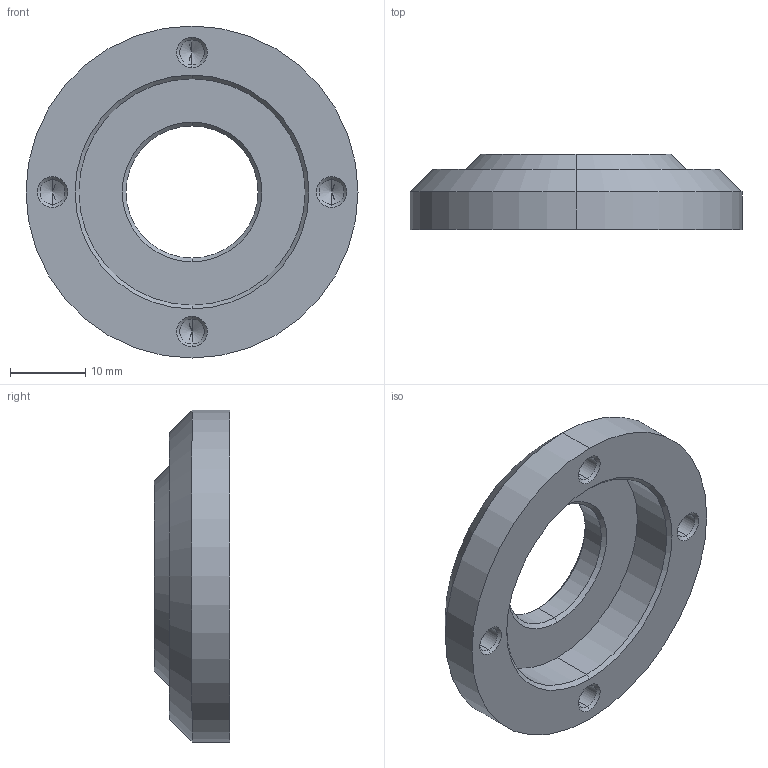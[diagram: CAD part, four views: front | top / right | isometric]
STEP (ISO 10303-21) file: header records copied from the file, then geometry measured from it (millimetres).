
FILE_DESCRIPTION (( 'STEP AP203' ), '1' );
FILE_NAME ('Distanzring_Zünder.STEP', '2020-12-15T00:54:22', ( '' ), ( '' ), 'SwSTEP 2.0', 'SolidWorks 2017', '' );
FILE_SCHEMA (( 'CONFIG_CONTROL_DESIGN' ));
Length unit declared in the file: millimetre
Products named in the file (1): Distanzring_Zünder
Bounding box: 44 x 10 x 44 mm (x, y, z)
Volume: 7290.1 mm3; surface area: 4454.8 mm2
Topology: 1 solids, 1 shells, 44 faces, 96 edges, 52 vertices
Faces by surface type: cone 26, cylinder 14, plane 4
Entity records: 1221 total; most frequent: DIRECTION 226, CARTESIAN_POINT 185, ORIENTED_EDGE 176, AXIS2_PLACEMENT_3D 93, EDGE_CURVE 88, VERTEX_POINT 52, EDGE_LOOP 52, CIRCLE 48
